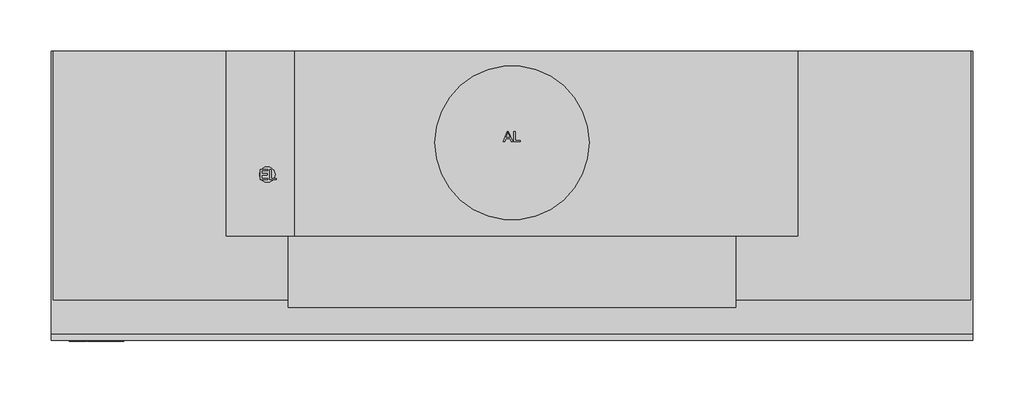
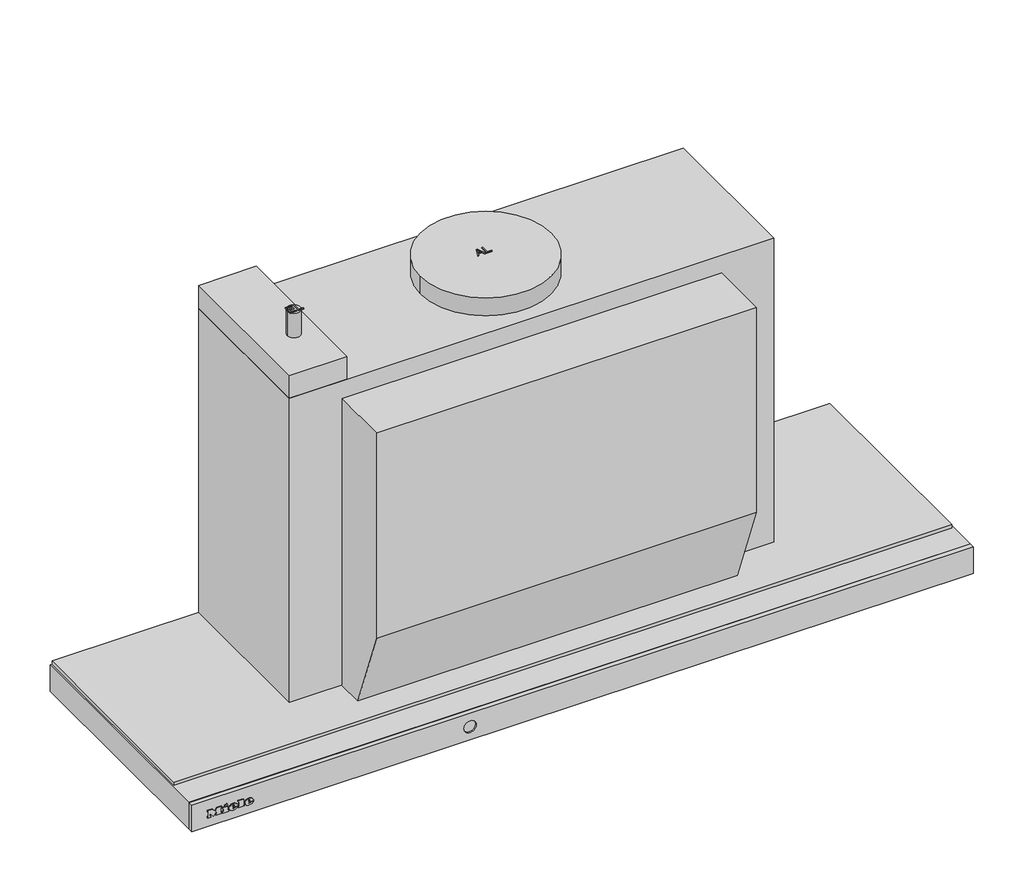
# Not in any storey: 1 proxy.
"""IFC4 building model written with IfcOpenShell, lengths in millimetres."""

from ifc_helpers import new_model, si_unit, origin, place, context, project, spatial, transform, mapped, element, save
from components import specialty_equipment_2b05c946

model = new_model("IFC4")

# Units and contexts
model_context = context("Model", 3, world=origin())
ifc_project = project(units=[si_unit("LENGTHUNIT", "METRE", prefix="MILLI")], contexts=[model_context])

# Site, building
site = spatial("IfcSite", under=ifc_project)
building = spatial("IfcBuilding", under=site)

# Proxy
placement = place(None, origin())
specialty_equipment_shape = specialty_equipment_2b05c946(model_context)
element("IfcBuildingElementProxy", 1, Name="11878440_PAC_DAS4930_OBSW : 28S4930B_PAC_11878440_DAS4930_OBSW", ObjectType="11878440_PAC_DAS4930_OBSW : 28S4930B_PAC_11878440_DAS4930_OBSW", at=placement, inside=building, context=model_context, shape_type="MappedRepresentation", body=[
    mapped(specialty_equipment_shape, transform((0.0, 0.0, 0.0), x_axis=(1.0, 0.0, 0.0), y_axis=(0.0, 1.0, 0.0), z_axis=(0.0, 0.0, 1.0))),
])

save(model, "model.ifc")
